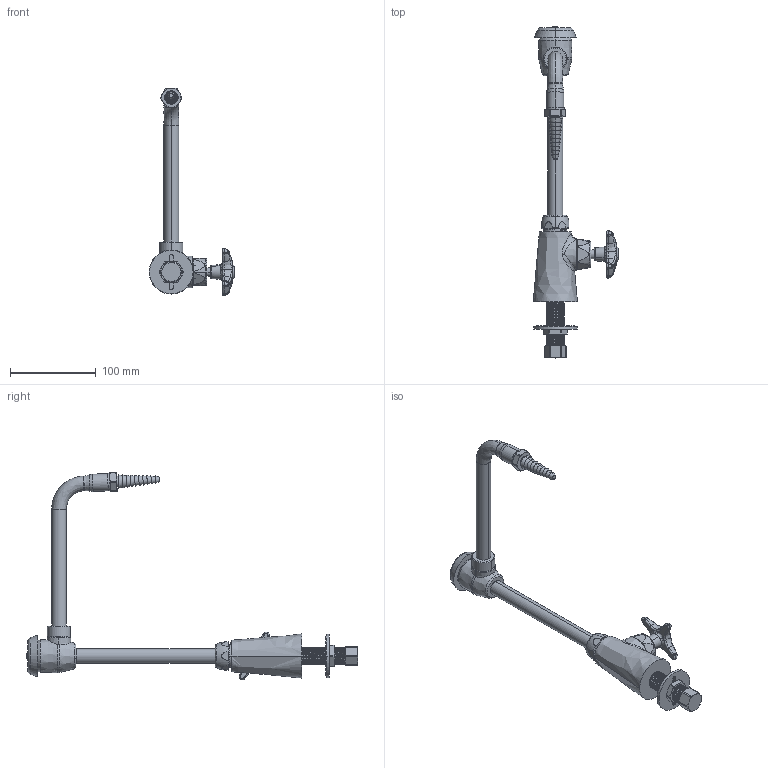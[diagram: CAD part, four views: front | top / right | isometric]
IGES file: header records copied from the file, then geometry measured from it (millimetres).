
Start section:  PTC IGES file: LWS1-B11-F.igs
Global section: file name: LWS1-B11-F.igs; native system: Creo Parametric by PTC Inc.; preprocessor: 2014500; author: usch_engrender; organization: Unknown; date: 20151202.195725; units: inch
Bounding box: 99.96 x 387.93 x 242.68 mm (x, y, z)
Volume: 350514.1 mm3; surface area: 79740.1 mm2
Topology: 1 solids, 5 shells, 486 faces, 1167 edges, 720 vertices
Faces by surface type: revolution 261, bspline 225
